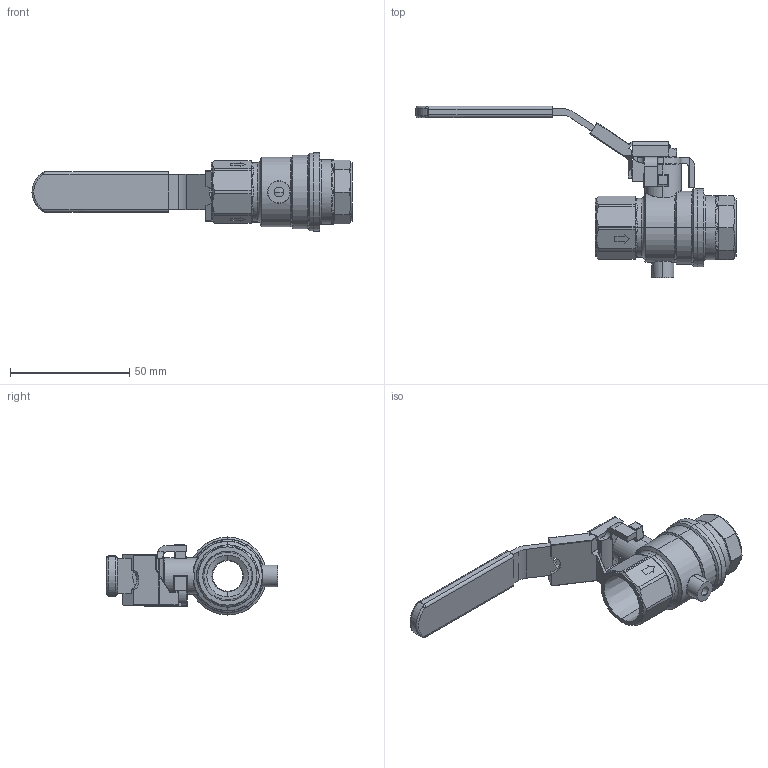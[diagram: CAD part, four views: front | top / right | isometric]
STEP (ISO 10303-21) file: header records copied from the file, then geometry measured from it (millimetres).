
FILE_DESCRIPTION (( 'STEP AP203' ), '1' );
FILE_NAME ('SEL-4.STEP', '2022-08-25T20:52:26', ( '' ), ( '' ), 'SwSTEP 2.0', 'SolidWorks 2021', '' );
FILE_SCHEMA (( 'CONFIG_CONTROL_DESIGN' ));
Length unit declared in the file: inch
Products named in the file (1): SEL-4
Bounding box: 134.3 x 71.9 x 32.77 mm (x, y, z)
Volume: 41107.7 mm3; surface area: 22886.9 mm2
Topology: 5 solids, 5 shells, 470 faces, 1188 edges, 723 vertices
Faces by surface type: cylinder 141, plane 141, bspline 80, cone 52, torus 41, sphere 15
Entity records: 18295 total; most frequent: CARTESIAN_POINT 7625, ORIENTED_EDGE 2348, DIRECTION 2095, EDGE_CURVE 1174, AXIS2_PLACEMENT_3D 810, VERTEX_POINT 720, EDGE_LOOP 490, VECTOR 475
